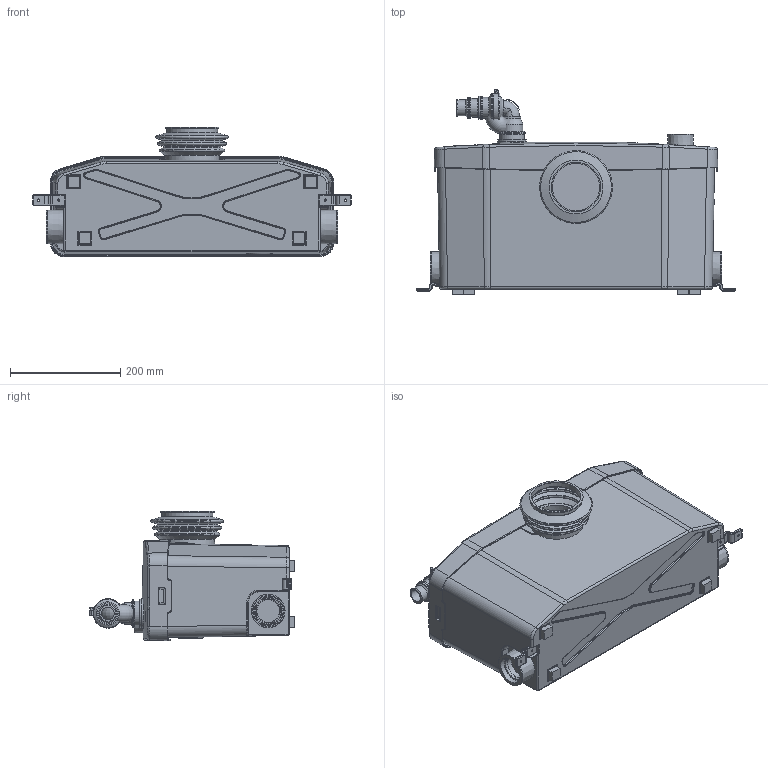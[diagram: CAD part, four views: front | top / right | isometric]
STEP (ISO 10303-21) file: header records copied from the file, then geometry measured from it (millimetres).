
FILE_DESCRIPTION (( 'STEP AP214' ), '1' );
FILE_NAME ('SANIPLUS 2 USA.STEP', '2018-10-16T12:54:14', ( 'VHUMBERT' ), ( '' ), 'SwSTEP 2.0', 'SolidWorks 2018', '' );
FILE_SCHEMA (( 'AUTOMOTIVE_DESIGN' ));
Length unit declared in the file: inch
Products named in the file (1): SANIPLUS 2 USA
Bounding box: 577.45 x 372.71 x 235.27 mm (x, y, z)
Volume: 1770270.7 mm3; surface area: 1236550.4 mm2
Topology: 1 solids, 6 shells, 1349 faces, 3237 edges, 1941 vertices
Faces by surface type: plane 468, cylinder 449, bspline 203, torus 128, cone 51, sphere 50
Full cylindrical faces by diameter (mm): 3 x2, 4 x4, 14 x1, 18 x2, 23 x1, 27 x2, 27.3 x1, 29 x1, 32 x3, 34 x2, 38 x4, 38.94 x2, 39 x1, 40.5 x1, 42 x2, 42.2 x2, 45 x2, 45.5 x1, 46 x1, 46.5 x1, 50 x1, 51.5 x2, 52 x1, 52.2 x1, 53.5 x1, 53.586 x2, 61 x2, 86 x1, 90 x1, 93 x1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
Entity records: 71559 total; most frequent: CARTESIAN_POINT 25544, ORIENTED_EDGE 6014, DIRECTION 5611, EDGE_CURVE 3007, AXIS2_PLACEMENT_3D 2161, VERTEX_POINT 1896, EDGE_LOOP 1597, FACE_OUTER_BOUND 1426
